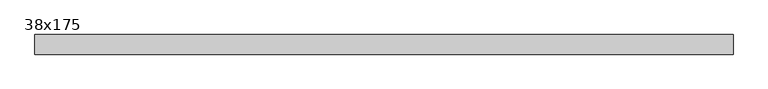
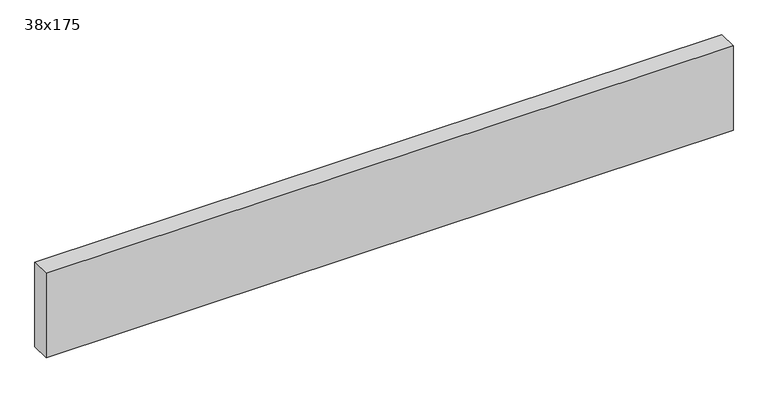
"""IFC4 building model written with IfcOpenShell, lengths in millimetres: beam geometry, Graded Timber : 38x175."""

from ifc_helpers import new_model, si_unit, frame, origin, place, context, project, spatial, polyline, outline, extrude, source, transform, mapped, element, save


def beam_38x175_68774d32(model_context):
    return source(origin(), model_context, "Body", "SweptSolid", [
        extrude(outline(polyline([(691.2814172, 19.0), (691.2814172, -19.0), (-660.8869835, -19.0), (-660.8869835, 19.0), (691.2814172, 19.0)])), frame((0.0, 0.0, -87.5), z_axis=(0.0, 0.0, 1.0), x_axis=(1.0, 0.0, 0.0)), (0.0, 0.0, 1.0), 175.0),
    ])


if __name__ == "__main__":
    model = new_model("IFC4")
    model_context = context("Model", 3, world=origin())
    ifc_project = project(units=[si_unit("LENGTHUNIT", "METRE", prefix="MILLI")], contexts=[model_context])
    site = spatial("IfcSite", under=ifc_project)
    building = spatial("IfcBuilding", under=site)
    placement = place(None, origin())
    beam_38x175_shape = beam_38x175_68774d32(model_context)
    element("IfcBeam", 1, ObjectType="Graded Timber : 38x175", at=placement, inside=building, context=model_context, shape_type="MappedRepresentation", body=[
        mapped(beam_38x175_shape, transform((0.0, 0.0, 0.0), x_axis=(1.0, 0.0, 0.0), y_axis=(0.0, 1.0, 0.0), z_axis=(0.0, 0.0, 1.0))),
    ])
    save(model, "model.ifc")
